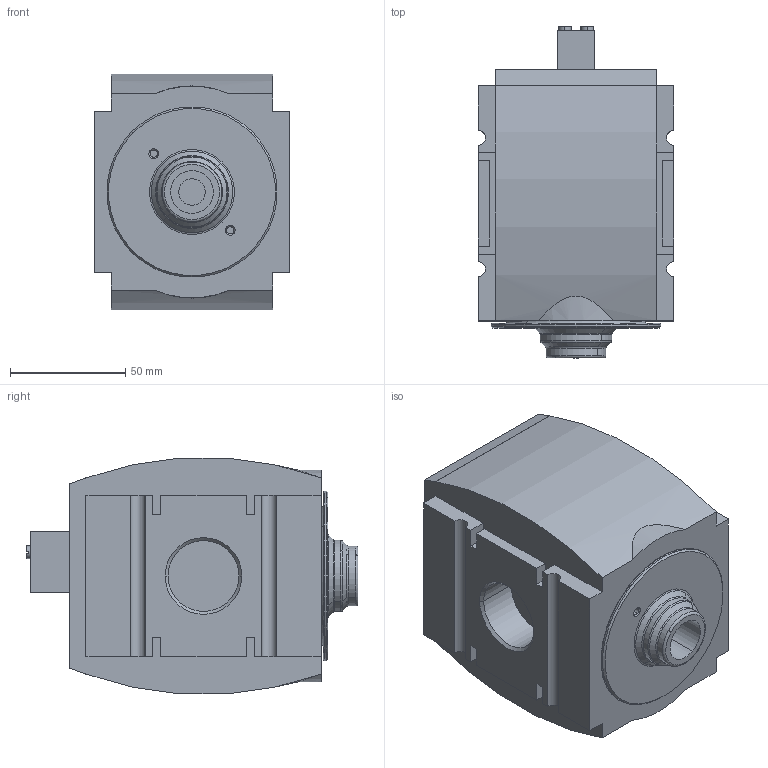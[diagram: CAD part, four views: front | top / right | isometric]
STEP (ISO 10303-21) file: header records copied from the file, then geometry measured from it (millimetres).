
FILE_DESCRIPTION((''),'2;1');
FILE_NAME('R412009263_ASM','2015-05-12T',('pma1hc'),(''),'PRO/ENGINEER BY PARAMETRIC TECHNOLOGY CORPORATION, 2011490','PRO/ENGINEER BY PARAMETRIC TECHNOLOGY CORPORATION, 2011490','');
FILE_SCHEMA(('AUTOMOTIVE_DESIGN_CC2 { 1 2 10303 214 -1 1 5 2 }'));
Length unit declared in the file: millimetre
Products named in the file (2): R412009263; R412009263_ASM
Assembly tree (1 placements, depth 2):
  R412009263_ASM
    R412009263
Bounding box: 85 x 144 x 102.28 mm (x, y, z)
Volume: 827694.6 mm3; surface area: 68139 mm2
Topology: 1 solids, 1 shells, 139 faces, 368 edges, 244 vertices
Faces by surface type: plane 77, cylinder 32, cone 16, torus 14
Entity records: 6785 total; most frequent: CARTESIAN_POINT 854, DIRECTION 786, ORIENTED_EDGE 736, PRESENTATION_STYLE_ASSIGNMENT 468, STYLED_ITEM 369, CURVE_STYLE 368, EDGE_CURVE 368, AXIS2_PLACEMENT_3D 280
